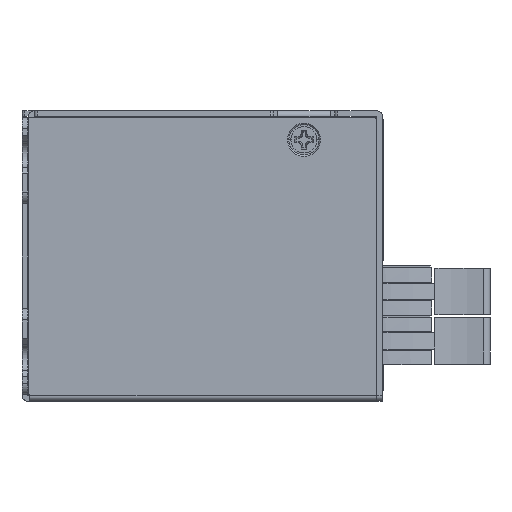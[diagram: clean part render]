
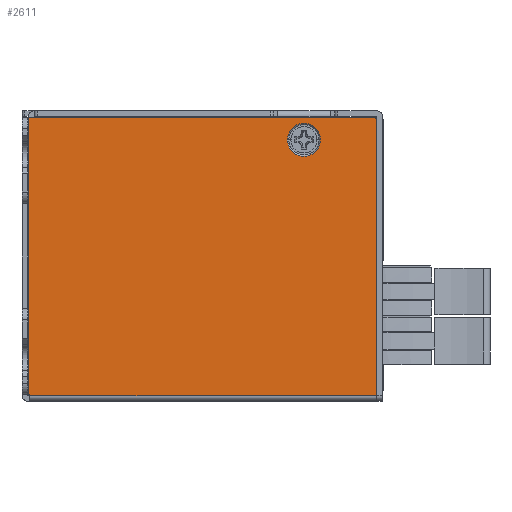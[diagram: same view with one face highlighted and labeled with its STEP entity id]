
A CAD part, left-side view. The second image highlights one B-rep face of the part: STEP entity #2611.
In plain terms, the highlighted planar face has unit normal (-1, 0, 0).
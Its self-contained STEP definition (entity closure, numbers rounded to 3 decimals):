
#717=DIRECTION('',(0.,0.,-1.));
#718=VECTOR('',#717,47.4);
#719=CARTESIAN_POINT('',(-69.,0.05,48.4));
#720=LINE('',#719,#718);
#756=DIRECTION('',(0.,0.,1.));
#757=VECTOR('',#756,0.1);
#758=CARTESIAN_POINT('',(-69.,59.65,1.));
#759=LINE('',#758,#757);
#765=CARTESIAN_POINT('',(-69.,0.55,48.4));
#766=DIRECTION('',(-1.,0.,0.));
#767=DIRECTION('',(0.,-1.,0.));
#768=AXIS2_PLACEMENT_3D('',#765,#766,#767);
#770=CARTESIAN_POINT('',(-69.,12.5,45.));
#771=DIRECTION('',(1.,0.,0.));
#772=DIRECTION('',(0.,-1.,0.));
#773=AXIS2_PLACEMENT_3D('',#770,#771,#772);
#775=CARTESIAN_POINT('',(-69.,12.5,45.));
#776=DIRECTION('',(1.,0.,0.));
#777=DIRECTION('',(0.,1.,0.));
#778=AXIS2_PLACEMENT_3D('',#775,#776,#777);
#780=DIRECTION('',(0.,-1.,0.));
#781=VECTOR('',#780,0.3);
#782=CARTESIAN_POINT('',(-69.,59.95,1.1));
#783=LINE('',#782,#781);
#804=DIRECTION('',(0.,0.,1.));
#805=VECTOR('',#804,47.8);
#806=CARTESIAN_POINT('',(-69.,59.95,1.1));
#807=LINE('',#806,#805);
#808=DIRECTION('',(0.,-1.,0.));
#809=VECTOR('',#808,59.4);
#810=CARTESIAN_POINT('',(-69.,59.95,48.9));
#811=LINE('',#810,#809);
#816=DIRECTION('',(0.,1.,0.));
#817=VECTOR('',#816,59.6);
#818=CARTESIAN_POINT('',(-69.,0.05,1.));
#819=LINE('',#818,#817);
#1347=CARTESIAN_POINT('',(-69.,15.35,45.));
#1348=CARTESIAN_POINT('',(-69.,9.65,45.));
#1349=VERTEX_POINT('',#1347);
#1350=VERTEX_POINT('',#1348);
#1351=CARTESIAN_POINT('',(-69.,59.65,1.));
#1352=CARTESIAN_POINT('',(-69.,59.65,1.1));
#1353=VERTEX_POINT('',#1351);
#1354=VERTEX_POINT('',#1352);
#1355=CARTESIAN_POINT('',(-69.,59.95,1.1));
#1356=VERTEX_POINT('',#1355);
#1357=CARTESIAN_POINT('',(-69.,59.95,48.9));
#1358=VERTEX_POINT('',#1357);
#1359=CARTESIAN_POINT('',(-69.,0.55,48.9));
#1360=VERTEX_POINT('',#1359);
#1361=CARTESIAN_POINT('',(-69.,0.05,48.4));
#1362=VERTEX_POINT('',#1361);
#1363=CARTESIAN_POINT('',(-69.,0.05,1.));
#1364=VERTEX_POINT('',#1363);
#2587=CARTESIAN_POINT('',(-69.,30.,24.95));
#2588=DIRECTION('',(1.,0.,0.));
#2589=DIRECTION('',(0.,-1.,0.));
#2590=AXIS2_PLACEMENT_3D('',#2587,#2588,#2589);
#2591=PLANE('',#2590);
#2592=ORIENTED_EDGE('',*,*,#2569,.T.);
#2594=ORIENTED_EDGE('',*,*,#2593,.F.);
#2596=ORIENTED_EDGE('',*,*,#2595,.T.);
#2598=ORIENTED_EDGE('',*,*,#2597,.T.);
#2599=ORIENTED_EDGE('',*,*,#2518,.F.);
#2600=ORIENTED_EDGE('',*,*,#2498,.T.);
#2602=ORIENTED_EDGE('',*,*,#2601,.T.);
#2603=EDGE_LOOP('',(#2592,#2594,#2596,#2598,#2599,#2600,#2602));
#2604=FACE_OUTER_BOUND('',#2603,.F.);
#2606=ORIENTED_EDGE('',*,*,#2605,.F.);
#2608=ORIENTED_EDGE('',*,*,#2607,.F.);
#2609=EDGE_LOOP('',(#2606,#2608));
#2610=FACE_BOUND('',#2609,.F.);
#2611=ADVANCED_FACE('',(#2604,#2610),#2591,.F.);
#769=CIRCLE('',#768,0.5);
#774=CIRCLE('',#773,2.85);
#779=CIRCLE('',#778,2.85);
#2498=EDGE_CURVE('',#1362,#1364,#720,.T.);
#2518=EDGE_CURVE('',#1362,#1360,#769,.T.);
#2569=EDGE_CURVE('',#1353,#1354,#759,.T.);
#2593=EDGE_CURVE('',#1356,#1354,#783,.T.);
#2595=EDGE_CURVE('',#1356,#1358,#807,.T.);
#2597=EDGE_CURVE('',#1358,#1360,#811,.T.);
#2601=EDGE_CURVE('',#1364,#1353,#819,.T.);
#2605=EDGE_CURVE('',#1350,#1349,#774,.T.);
#2607=EDGE_CURVE('',#1349,#1350,#779,.T.);
